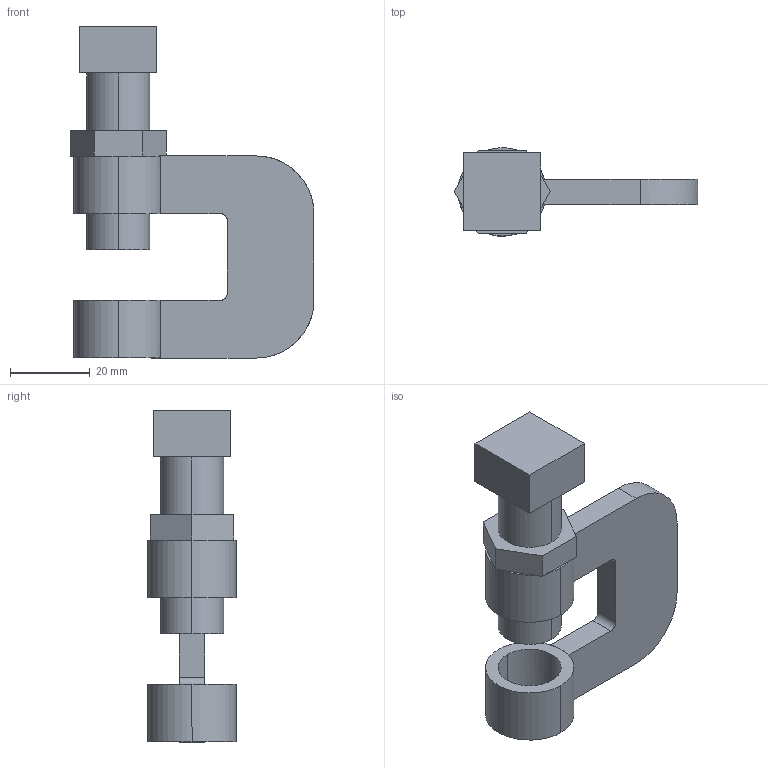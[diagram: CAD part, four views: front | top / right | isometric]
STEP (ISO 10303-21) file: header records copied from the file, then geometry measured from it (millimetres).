
FILE_DESCRIPTION(('TurboCAD Mac Pro'),'Build 980');
FILE_NAME('P2896-62.stp',' ',(''),(''),'ACIS Interop','IMSI','TurboCAD Mac Pro BY IMSI, INCORPORATED');
FILE_SCHEMA(('automotive_design'));
Length unit declared in the file: inch
Products named in the file (3): 1; 2; 3
Bounding box: 61.3 x 22.23 x 83.47 mm (x, y, z)
Volume: 29433.6 mm3; surface area: 13157.4 mm2
Topology: 3 solids, 3 shells, 57 faces, 150 edges, 100 vertices
Faces by surface type: plane 29, bspline 28
Entity records: 2442 total; most frequent: CARTESIAN_POINT 694, ORIENTED_EDGE 300, DIRECTION 154, EDGE_CURVE 150, VERTEX_POINT 100, LINE 90, VECTOR 90, EDGE_LOOP 64
